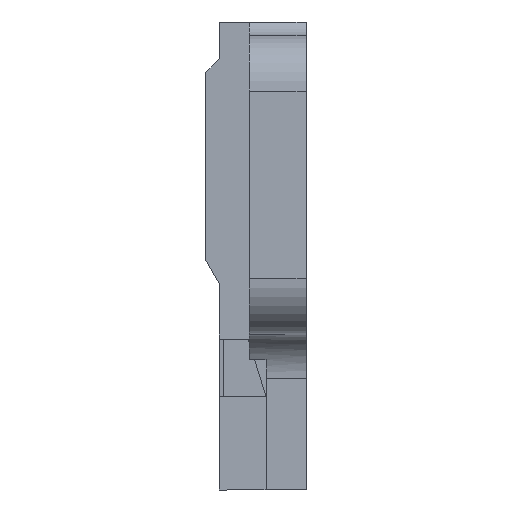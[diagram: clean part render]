
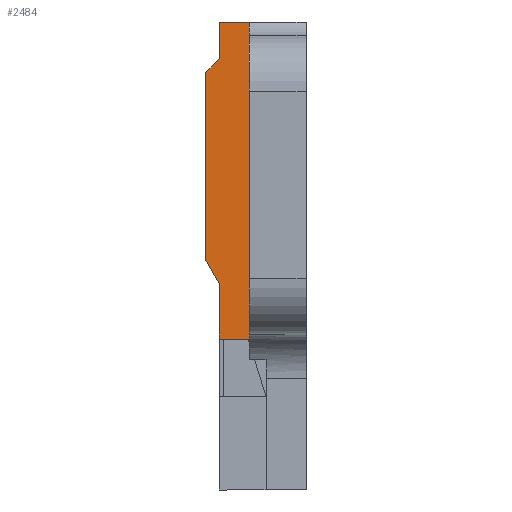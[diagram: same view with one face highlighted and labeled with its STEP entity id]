
A CAD part, left-side view. The second image highlights one B-rep face of the part: STEP entity #2484.
In plain terms, the highlighted planar face has unit normal (-1, 0, 0).
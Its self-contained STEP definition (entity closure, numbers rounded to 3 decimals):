
#5 = EDGE_LOOP ( 'NONE', ( #2654, #103, #2453, #2375, #2602, #187, #1743, #2127 ) ) ;
#103 = ORIENTED_EDGE ( 'NONE', *, *, #1549, .F. ) ;
#187 = ORIENTED_EDGE ( 'NONE', *, *, #352, .F. ) ;
#343 = VERTEX_POINT ( 'NONE', #1394 ) ;
#352 = EDGE_CURVE ( 'NONE', #3566, #1964, #3686, .T. ) ;
#422 = EDGE_CURVE ( 'NONE', #726, #1424, #555, .T. ) ;
#555 = LINE ( 'NONE', #3065, #2421 ) ;
#589 = LINE ( 'NONE', #2811, #1094 ) ;
#726 = VERTEX_POINT ( 'NONE', #1908 ) ;
#969 = VERTEX_POINT ( 'NONE', #2516 ) ;
#1024 = VECTOR ( 'NONE', #2064, 1000. ) ;
#1094 = VECTOR ( 'NONE', #1745, 1000. ) ;
#1197 = LINE ( 'NONE', #2858, #1566 ) ;
#1275 = LINE ( 'NONE', #2960, #2610 ) ;
#1355 = VERTEX_POINT ( 'NONE', #3114 ) ;
#1379 = EDGE_CURVE ( 'NONE', #1355, #969, #1771, .T. ) ;
#1385 = CARTESIAN_POINT ( 'NONE',  ( -5.6, -23.452, -7.45 ) ) ;
#1394 = CARTESIAN_POINT ( 'NONE',  ( -5.6, 7.7, 17.7 ) ) ;
#1399 = EDGE_CURVE ( 'NONE', #1964, #1355, #1275, .T. ) ;
#1402 = DIRECTION ( 'NONE',  ( 0., 1., 0. ) ) ;
#1424 = VERTEX_POINT ( 'NONE', #3231 ) ;
#1454 = EDGE_CURVE ( 'NONE', #726, #3566, #3380, .T. ) ;
#1541 = CARTESIAN_POINT ( 'NONE',  ( -5.6, 5., -7.45 ) ) ;
#1549 = EDGE_CURVE ( 'NONE', #3483, #343, #589, .T. ) ;
#1566 = VECTOR ( 'NONE', #1775, 1000. ) ;
#1595 = VECTOR ( 'NONE', #1714, 1000. ) ;
#1714 = DIRECTION ( 'NONE',  ( 0., 0.5, 0.866 ) ) ;
#1743 = ORIENTED_EDGE ( 'NONE', *, *, #1454, .F. ) ;
#1745 = DIRECTION ( 'NONE',  ( 0., -0.707, 0.707 ) ) ;
#1771 = LINE ( 'NONE', #3323, #1595 ) ;
#1775 = DIRECTION ( 'NONE',  ( 0., 0., 1. ) ) ;
#1876 = CARTESIAN_POINT ( 'NONE',  ( -5.6, 8.9, 16.5 ) ) ;
#1908 = CARTESIAN_POINT ( 'NONE',  ( -5.6, 5., 21. ) ) ;
#1945 = EDGE_CURVE ( 'NONE', #969, #3483, #1197, .T. ) ;
#1964 = VERTEX_POINT ( 'NONE', #2488 ) ;
#2064 = DIRECTION ( 'NONE',  ( 0., 0., -1. ) ) ;
#2127 = ORIENTED_EDGE ( 'NONE', *, *, #422, .T. ) ;
#2153 = AXIS2_PLACEMENT_3D ( 'NONE', #2758, #2535, #2521 ) ;
#2375 = ORIENTED_EDGE ( 'NONE', *, *, #1379, .F. ) ;
#2421 = VECTOR ( 'NONE', #3070, 1000. ) ;
#2453 = ORIENTED_EDGE ( 'NONE', *, *, #1945, .F. ) ;
#2484 = ADVANCED_FACE ( 'NONE', ( #3258 ), #2669, .T. ) ;
#2488 = CARTESIAN_POINT ( 'NONE',  ( -5.6, 7.7, -7.45 ) ) ;
#2516 = CARTESIAN_POINT ( 'NONE',  ( -5.6, 8.9, -0.422 ) ) ;
#2521 = DIRECTION ( 'NONE',  ( 0., -1., 0. ) ) ;
#2535 = DIRECTION ( 'NONE',  ( -1., 0., 0. ) ) ;
#2578 = VECTOR ( 'NONE', #1402, 1000. ) ;
#2602 = ORIENTED_EDGE ( 'NONE', *, *, #1399, .F. ) ;
#2610 = VECTOR ( 'NONE', #3225, 1000. ) ;
#2654 = ORIENTED_EDGE ( 'NONE', *, *, #2704, .F. ) ;
#2669 = PLANE ( 'NONE',  #2153 ) ;
#2704 = EDGE_CURVE ( 'NONE', #343, #1424, #3037, .T. ) ;
#2758 = CARTESIAN_POINT ( 'NONE',  ( -5.6, -23.452, 21. ) ) ;
#2811 = CARTESIAN_POINT ( 'NONE',  ( -5.6, 8.9, 16.5 ) ) ;
#2858 = CARTESIAN_POINT ( 'NONE',  ( -5.6, 8.9, 21. ) ) ;
#2960 = CARTESIAN_POINT ( 'NONE',  ( -5.6, 7.7, -7.45 ) ) ;
#3029 = VECTOR ( 'NONE', #3546, 1000. ) ;
#3037 = LINE ( 'NONE', #3430, #3029 ) ;
#3065 = CARTESIAN_POINT ( 'NONE',  ( -5.6, -23.452, 21. ) ) ;
#3070 = DIRECTION ( 'NONE',  ( 0., 1., 0. ) ) ;
#3114 = CARTESIAN_POINT ( 'NONE',  ( -5.6, 7.7, -2.5 ) ) ;
#3225 = DIRECTION ( 'NONE',  ( 0., 0., 1. ) ) ;
#3231 = CARTESIAN_POINT ( 'NONE',  ( -5.6, 7.7, 21. ) ) ;
#3258 = FACE_OUTER_BOUND ( 'NONE', #5, .T. ) ;
#3323 = CARTESIAN_POINT ( 'NONE',  ( -5.6, 7.7, -2.5 ) ) ;
#3380 = LINE ( 'NONE', #3650, #1024 ) ;
#3430 = CARTESIAN_POINT ( 'NONE',  ( -5.6, 7.7, 17.7 ) ) ;
#3483 = VERTEX_POINT ( 'NONE', #1876 ) ;
#3546 = DIRECTION ( 'NONE',  ( 0., 0., 1. ) ) ;
#3566 = VERTEX_POINT ( 'NONE', #1541 ) ;
#3650 = CARTESIAN_POINT ( 'NONE',  ( -5.6, 5., 0. ) ) ;
#3686 = LINE ( 'NONE', #1385, #2578 ) ;
